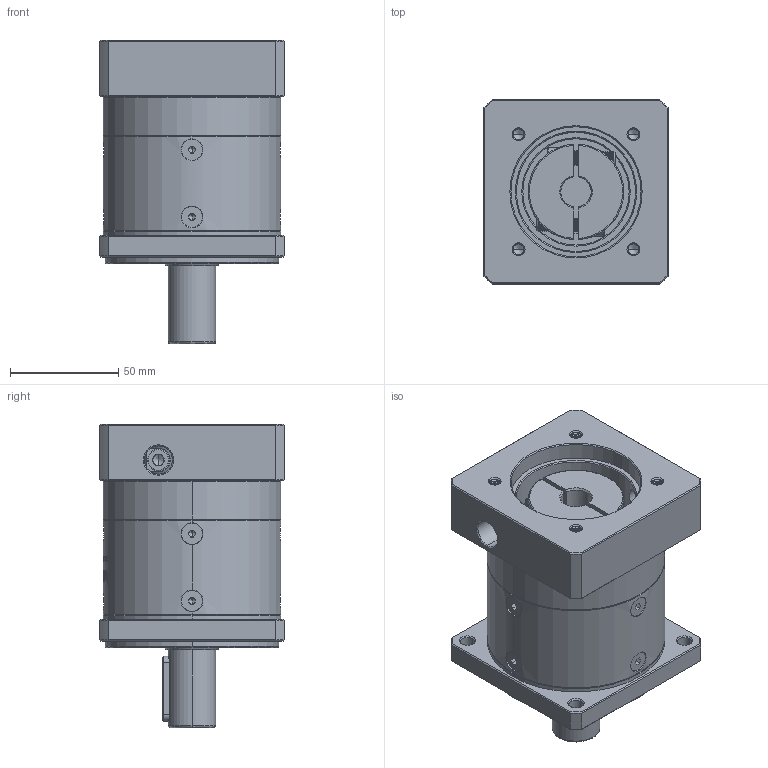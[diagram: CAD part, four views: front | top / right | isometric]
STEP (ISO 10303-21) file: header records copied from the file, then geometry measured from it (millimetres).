
FILE_DESCRIPTION (( 'STEP AP214' ), '1' );
FILE_NAME ('ZF80-D22-L1-14-60-75-M6.step', '2022-05-08T09:16:53', ( '' ), ( 'Microsoft' ), 'SwSTEP 2.0', 'SolidWorks 2016', '' );
FILE_SCHEMA (( 'AUTOMOTIVE_DESIGN' ));
Length unit declared in the file: millimetre
Products named in the file (1): ZF80-D22-L1-14-60-75-M6
Bounding box: 85 x 85 x 140 mm (x, y, z)
Volume: 557744.5 mm3; surface area: 88994 mm2
Topology: 13 solids, 13 shells, 1991 faces, 5143 edges, 3246 vertices
Faces by surface type: plane 896, cylinder 412, cone 346, bspline 320, torus 17
Entity records: 108188 total; most frequent: CARTESIAN_POINT 41380, ORIENTED_EDGE 10226, DIRECTION 8084, EDGE_CURVE 5113, VERTEX_POINT 3246, VECTOR 2766, LINE 2766, AXIS2_PLACEMENT_3D 2659
